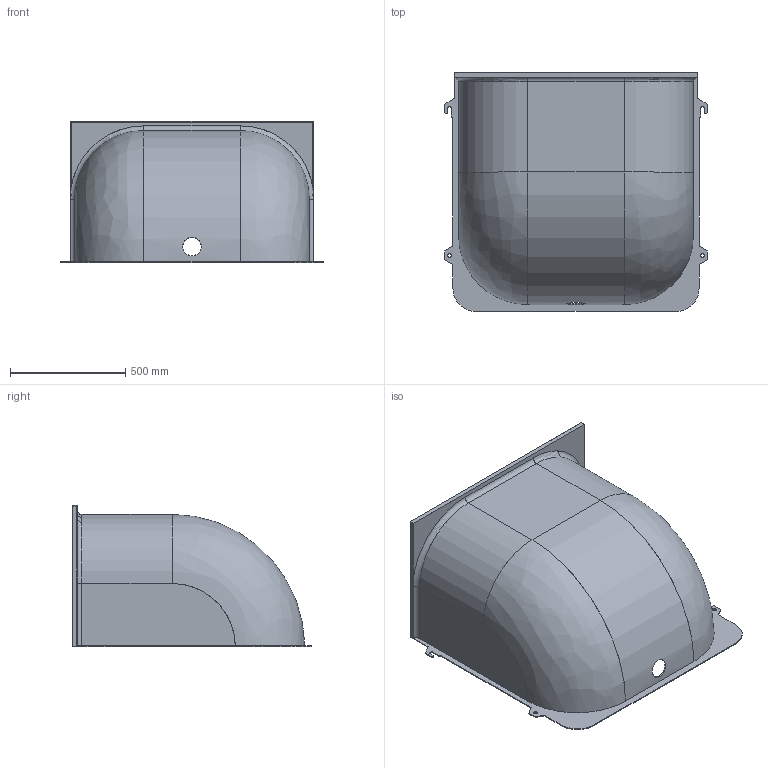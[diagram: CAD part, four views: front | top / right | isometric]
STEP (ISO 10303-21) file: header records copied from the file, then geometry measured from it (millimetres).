
FILE_DESCRIPTION(/* description */ (''),/* implementation_level */ '2;1');
FILE_NAME(/* name */ 'Q:\sge-bs-neu-2008\Marketing\CAD Zeichnungen\3D-CAD-Daten\3D Daten Website\- MEA Multinorm Kunststofflichtschacht\Step\Multinorm_100x100x60.stp',/* time_stamp */ '2019-02-14T10:58:25+01:00',/* author */ ('avgrahammj'),/* organization */ (''),/* preprocessor_version */ 'ST-DEVELOPER v16.1',/* originating_system */ 'Autodesk Inventor 2016',/* authorisation */ '');
FILE_SCHEMA (('AUTOMOTIVE_DESIGN { 1 0 10303 214 3 1 1 }'));
Length unit declared in the file: millimetre
Products named in the file (1): Multinorm_100x100x60
Bounding box: 1142 x 1037 x 615 mm (x, y, z)
Volume: 8833970.1 mm3; surface area: 4442002 mm2
Topology: 1 solids, 1 shells, 71 faces, 195 edges, 126 vertices
Faces by surface type: plane 40, cylinder 23, torus 4, bspline 4
Full cylindrical faces by diameter (mm): 16 x2, 80 x1
Entity records: 2488 total; most frequent: CARTESIAN_POINT 642, ORIENTED_EDGE 384, DIRECTION 374, EDGE_CURVE 192, LINE 130, VECTOR 130, VERTEX_POINT 126, AXIS2_PLACEMENT_3D 122
